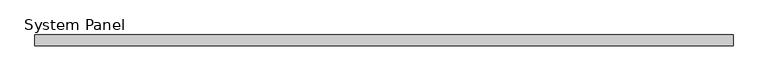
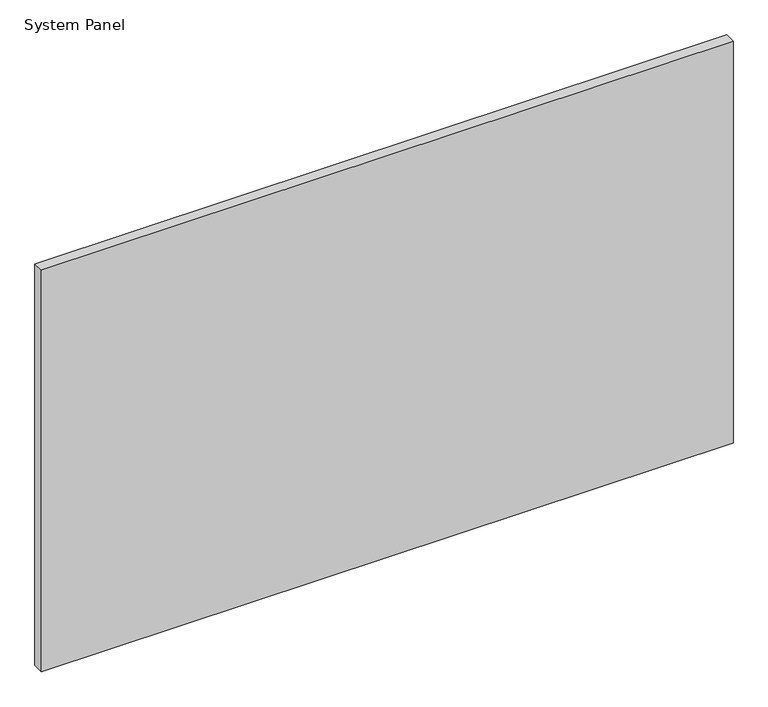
"""IFC4 building model written with IfcOpenShell, lengths in millimetres: plate geometry, System Panel : Glazed - ACMP (AL-1)."""

from ifc_helpers import new_model, si_unit, origin, origin_with_axes, place, context, project, spatial, polyline, outline, extrude, source, transform, mapped, element, save


def system_panel_22c81e9e(model_context):
    return source(origin(), model_context, "Body", "SweptSolid", [
        extrude(outline(polyline([(806.45, -25.4), (-806.45, -25.4), (-806.45, 0.0), (806.45, 0.0), (806.45, -25.4)])), origin_with_axes(), (0.0, 0.0, 1.0), 990.6),
    ])


if __name__ == "__main__":
    model = new_model("IFC4")
    model_context = context("Model", 3, world=origin())
    ifc_project = project(units=[si_unit("LENGTHUNIT", "METRE", prefix="MILLI")], contexts=[model_context])
    site = spatial("IfcSite", under=ifc_project)
    building = spatial("IfcBuilding", under=site)
    placement = place(None, origin())
    system_panel_shape = system_panel_22c81e9e(model_context)
    element("IfcPlate", 1, ObjectType="System Panel : Glazed - ACMP (AL-1)", at=placement, inside=building, context=model_context, shape_type="MappedRepresentation", body=[
        mapped(system_panel_shape, transform((0.0, 0.0, 0.0), x_axis=(1.0, 0.0, 0.0), y_axis=(0.0, 1.0, 0.0), z_axis=(0.0, 0.0, 1.0))),
    ])
    save(model, "model.ifc")
